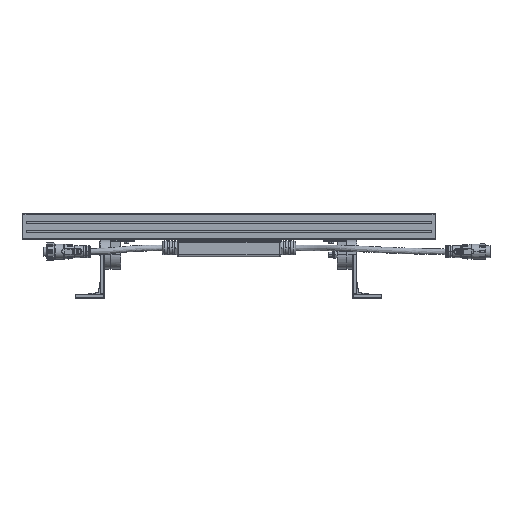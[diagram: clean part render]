
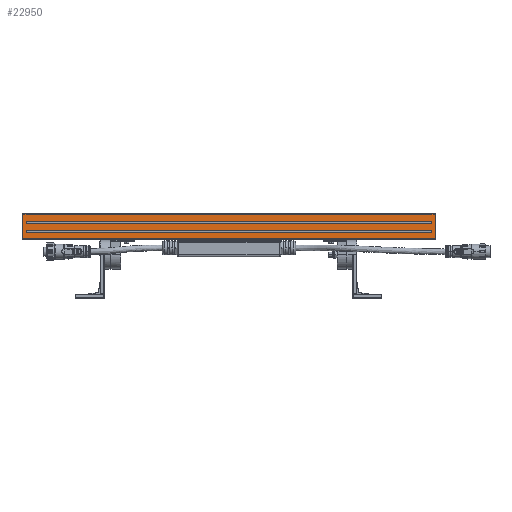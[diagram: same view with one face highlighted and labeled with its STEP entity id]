
A CAD part, top view. The second image highlights one B-rep face of the part: STEP entity #22950.
In plain terms, the highlighted planar face has unit normal (0, 0, 1).
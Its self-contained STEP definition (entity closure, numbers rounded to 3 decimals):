
#268 = CARTESIAN_POINT ( 'NONE',  ( 249.6, 72.5, 33.5 ) ) ;
#663 = ORIENTED_EDGE ( 'NONE', *, *, #69198, .F. ) ;
#1183 = CARTESIAN_POINT ( 'NONE',  ( -745., 82.1, 33.5 ) ) ;
#1200 = CARTESIAN_POINT ( 'NONE',  ( -245., 93.3, 33.5 ) ) ;
#3430 = LINE ( 'NONE', #61097, #43363 ) ;
#4035 = CARTESIAN_POINT ( 'NONE',  ( -745., 101.5, 33.5 ) ) ;
#4871 = LINE ( 'NONE', #78725, #34861 ) ;
#7397 = FACE_BOUND ( 'NONE', #17792, .T. ) ;
#8241 = LINE ( 'NONE', #82645, #22386 ) ;
#9157 = ORIENTED_EDGE ( 'NONE', *, *, #106263, .T. ) ;
#9419 = EDGE_CURVE ( 'NONE', #43758, #49839, #8241, .T. ) ;
#10470 = DIRECTION ( 'NONE',  ( 0., 1., 0. ) ) ;
#10850 = EDGE_CURVE ( 'NONE', #17304, #78206, #49163, .T. ) ;
#13597 = ORIENTED_EDGE ( 'NONE', *, *, #9419, .T. ) ;
#14998 = ORIENTED_EDGE ( 'NONE', *, *, #19196, .T. ) ;
#17304 = VERTEX_POINT ( 'NONE', #17383 ) ;
#17383 = CARTESIAN_POINT ( 'NONE',  ( 249.6, 101.5, 33.5 ) ) ;
#17792 = EDGE_LOOP ( 'NONE', ( #14998, #92976, #104369, #19896 ) ) ;
#19196 = EDGE_CURVE ( 'NONE', #72539, #101791, #4871, .T. ) ;
#19338 = DIRECTION ( 'NONE',  ( 1., 0., 0. ) ) ;
#19896 = ORIENTED_EDGE ( 'NONE', *, *, #102019, .F. ) ;
#20165 = DIRECTION ( 'NONE',  ( 1., 0., 0. ) ) ;
#21971 = EDGE_CURVE ( 'NONE', #102378, #27506, #42370, .T. ) ;
#22386 = VECTOR ( 'NONE', #42273, 1000. ) ;
#22708 = VECTOR ( 'NONE', #31336, 1000. ) ;
#22950 = ADVANCED_FACE ( 'NONE', ( #7397, #72143, #79157 ), #39339, .T. ) ;
#23524 = VERTEX_POINT ( 'NONE', #60098 ) ;
#24677 = CARTESIAN_POINT ( 'NONE',  ( -249.6, 72.5, 33.5 ) ) ;
#27506 = VERTEX_POINT ( 'NONE', #27887 ) ;
#27637 = EDGE_CURVE ( 'NONE', #63723, #55214, #50872, .T. ) ;
#27887 = CARTESIAN_POINT ( 'NONE',  ( 245., 93.3, 33.5 ) ) ;
#28235 = CARTESIAN_POINT ( 'NONE',  ( 249.6, 72.5, 33.5 ) ) ;
#28663 = CARTESIAN_POINT ( 'NONE',  ( -249.6, 101.5, 33.5 ) ) ;
#29844 = CARTESIAN_POINT ( 'NONE',  ( -245., 79.2, 33.5 ) ) ;
#30123 = ORIENTED_EDGE ( 'NONE', *, *, #79965, .F. ) ;
#31336 = DIRECTION ( 'NONE',  ( 0., 1., 0. ) ) ;
#33417 = VECTOR ( 'NONE', #19338, 1000. ) ;
#33922 = VECTOR ( 'NONE', #80995, 1000. ) ;
#34519 = CARTESIAN_POINT ( 'NONE',  ( -745., 79.2, 33.5 ) ) ;
#34861 = VECTOR ( 'NONE', #69070, 1000. ) ;
#39095 = VERTEX_POINT ( 'NONE', #47304 ) ;
#39339 = PLANE ( 'NONE',  #87095 ) ;
#39428 = CARTESIAN_POINT ( 'NONE',  ( 245., 72.5, 33.5 ) ) ;
#39449 = LINE ( 'NONE', #62566, #43829 ) ;
#39841 = ORIENTED_EDGE ( 'NONE', *, *, #27637, .F. ) ;
#40102 = VERTEX_POINT ( 'NONE', #78223 ) ;
#42273 = DIRECTION ( 'NONE',  ( 0., 1., 0. ) ) ;
#42370 = LINE ( 'NONE', #51458, #90392 ) ;
#43363 = VECTOR ( 'NONE', #20165, 1000. ) ;
#43758 = VERTEX_POINT ( 'NONE', #29844 ) ;
#43829 = VECTOR ( 'NONE', #46907, 1000. ) ;
#45044 = LINE ( 'NONE', #4035, #52115 ) ;
#45140 = EDGE_CURVE ( 'NONE', #101791, #27506, #82904, .T. ) ;
#46316 = VECTOR ( 'NONE', #66250, 1000. ) ;
#46907 = DIRECTION ( 'NONE',  ( 1., 0., 0. ) ) ;
#47304 = CARTESIAN_POINT ( 'NONE',  ( 249.6, 72.5, 33.5 ) ) ;
#48629 = EDGE_CURVE ( 'NONE', #39095, #63723, #103644, .T. ) ;
#49163 = LINE ( 'NONE', #105312, #33922 ) ;
#49839 = VERTEX_POINT ( 'NONE', #105899 ) ;
#50872 = LINE ( 'NONE', #90308, #75369 ) ;
#51458 = CARTESIAN_POINT ( 'NONE',  ( 245., 72.5, 33.5 ) ) ;
#52115 = VECTOR ( 'NONE', #53098, 1000. ) ;
#53098 = DIRECTION ( 'NONE',  ( 1., 0., 0. ) ) ;
#54332 = DIRECTION ( 'NONE',  ( 0., 0., 1. ) ) ;
#54882 = CARTESIAN_POINT ( 'NONE',  ( 245., 71.5, 33.5 ) ) ;
#55014 = VERTEX_POINT ( 'NONE', #65887 ) ;
#55214 = VERTEX_POINT ( 'NONE', #28663 ) ;
#60098 = CARTESIAN_POINT ( 'NONE',  ( 245., 79.2, 33.5 ) ) ;
#60387 = EDGE_CURVE ( 'NONE', #43758, #23524, #76463, .T. ) ;
#60677 = EDGE_CURVE ( 'NONE', #55014, #78206, #45044, .T. ) ;
#60998 = ORIENTED_EDGE ( 'NONE', *, *, #60387, .F. ) ;
#61097 = CARTESIAN_POINT ( 'NONE',  ( -249.6, 101.5, 33.5 ) ) ;
#61424 = ORIENTED_EDGE ( 'NONE', *, *, #60677, .F. ) ;
#62230 = VECTOR ( 'NONE', #93958, 1000. ) ;
#62566 = CARTESIAN_POINT ( 'NONE',  ( -745., 90.4, 33.5 ) ) ;
#63723 = VERTEX_POINT ( 'NONE', #24677 ) ;
#65887 = CARTESIAN_POINT ( 'NONE',  ( -245., 101.5, 33.5 ) ) ;
#66250 = DIRECTION ( 'NONE',  ( 1., 0., 0. ) ) ;
#68661 = VECTOR ( 'NONE', #75570, 1000. ) ;
#68741 = VECTOR ( 'NONE', #100532, 1000. ) ;
#69070 = DIRECTION ( 'NONE',  ( 0., 1., 0. ) ) ;
#69198 = EDGE_CURVE ( 'NONE', #23524, #40102, #98124, .T. ) ;
#71595 = ORIENTED_EDGE ( 'NONE', *, *, #48629, .F. ) ;
#72143 = FACE_BOUND ( 'NONE', #106414, .T. ) ;
#72539 = VERTEX_POINT ( 'NONE', #88113 ) ;
#72672 = DIRECTION ( 'NONE',  ( 0., 1., 0. ) ) ;
#75020 = LINE ( 'NONE', #1183, #68661 ) ;
#75369 = VECTOR ( 'NONE', #98382, 1000. ) ;
#75570 = DIRECTION ( 'NONE',  ( 1., 0., 0. ) ) ;
#75714 = LINE ( 'NONE', #268, #68741 ) ;
#76386 = CARTESIAN_POINT ( 'NONE',  ( 245., 90.4, 33.5 ) ) ;
#76450 = CARTESIAN_POINT ( 'NONE',  ( -745., 93.3, 33.5 ) ) ;
#76463 = LINE ( 'NONE', #34519, #33417 ) ;
#78206 = VERTEX_POINT ( 'NONE', #98652 ) ;
#78223 = CARTESIAN_POINT ( 'NONE',  ( 245., 82.1, 33.5 ) ) ;
#78725 = CARTESIAN_POINT ( 'NONE',  ( -245., 72.5, 33.5 ) ) ;
#79157 = FACE_OUTER_BOUND ( 'NONE', #82148, .T. ) ;
#79965 = EDGE_CURVE ( 'NONE', #55214, #55014, #3430, .T. ) ;
#80995 = DIRECTION ( 'NONE',  ( -1., 0., 0. ) ) ;
#82148 = EDGE_LOOP ( 'NONE', ( #71595, #9157, #90492, #61424, #30123, #39841 ) ) ;
#82645 = CARTESIAN_POINT ( 'NONE',  ( -245., 72.5, 33.5 ) ) ;
#82904 = LINE ( 'NONE', #76450, #46316 ) ;
#87095 = AXIS2_PLACEMENT_3D ( 'NONE', #54882, #54332, #72672 ) ;
#88113 = CARTESIAN_POINT ( 'NONE',  ( -245., 90.4, 33.5 ) ) ;
#90308 = CARTESIAN_POINT ( 'NONE',  ( -249.6, 72.5, 33.5 ) ) ;
#90392 = VECTOR ( 'NONE', #10470, 1000. ) ;
#90492 = ORIENTED_EDGE ( 'NONE', *, *, #10850, .T. ) ;
#92976 = ORIENTED_EDGE ( 'NONE', *, *, #45140, .T. ) ;
#93958 = DIRECTION ( 'NONE',  ( -1., 0., 0. ) ) ;
#95196 = EDGE_CURVE ( 'NONE', #49839, #40102, #75020, .T. ) ;
#98124 = LINE ( 'NONE', #39428, #22708 ) ;
#98382 = DIRECTION ( 'NONE',  ( 0., 1., 0. ) ) ;
#98652 = CARTESIAN_POINT ( 'NONE',  ( 245., 101.5, 33.5 ) ) ;
#100532 = DIRECTION ( 'NONE',  ( 0., 1., 0. ) ) ;
#101791 = VERTEX_POINT ( 'NONE', #1200 ) ;
#102019 = EDGE_CURVE ( 'NONE', #72539, #102378, #39449, .T. ) ;
#102378 = VERTEX_POINT ( 'NONE', #76386 ) ;
#103644 = LINE ( 'NONE', #28235, #62230 ) ;
#104369 = ORIENTED_EDGE ( 'NONE', *, *, #21971, .F. ) ;
#105312 = CARTESIAN_POINT ( 'NONE',  ( 249.6, 101.5, 33.5 ) ) ;
#105899 = CARTESIAN_POINT ( 'NONE',  ( -245., 82.1, 33.5 ) ) ;
#106263 = EDGE_CURVE ( 'NONE', #39095, #17304, #75714, .T. ) ;
#106414 = EDGE_LOOP ( 'NONE', ( #13597, #106451, #663, #60998 ) ) ;
#106451 = ORIENTED_EDGE ( 'NONE', *, *, #95196, .T. ) ;
